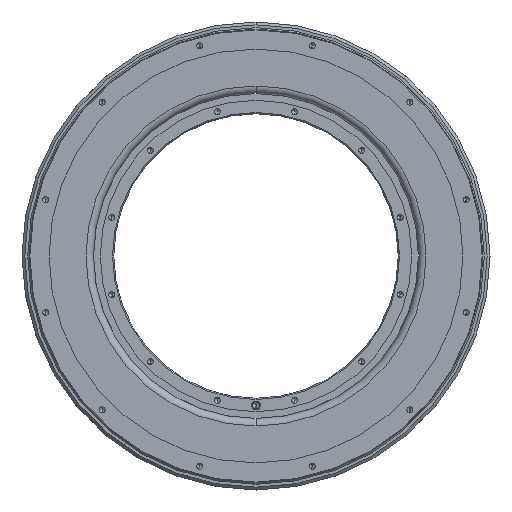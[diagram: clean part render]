
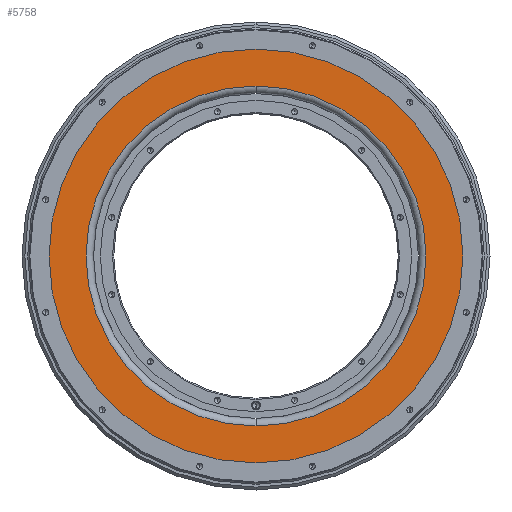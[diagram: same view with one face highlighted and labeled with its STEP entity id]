
A CAD part, front view. The second image highlights one B-rep face of the part: STEP entity #5758.
In plain terms, the highlighted planar face has unit normal (0, -1, 0).
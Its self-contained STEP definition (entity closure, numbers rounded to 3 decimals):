
#246 = DIRECTION ( 'NONE',  ( 0., 0., 1. ) ) ;
#412 = AXIS2_PLACEMENT_3D ( 'NONE', #4676, #442, #474 ) ;
#442 = DIRECTION ( 'NONE',  ( 0., 1., 0. ) ) ;
#465 = ORIENTED_EDGE ( 'NONE', *, *, #8377, .T. ) ;
#474 = DIRECTION ( 'NONE',  ( 0., 0., 1. ) ) ;
#480 = ORIENTED_EDGE ( 'NONE', *, *, #7435, .T. ) ;
#964 = CARTESIAN_POINT ( 'NONE',  ( 0., 3., 0. ) ) ;
#1097 = FACE_OUTER_BOUND ( 'NONE', #3872, .T. ) ;
#1186 = EDGE_CURVE ( 'NONE', #8975, #2670, #5616, .T. ) ;
#1329 = VERTEX_POINT ( 'NONE', #7527 ) ;
#1461 = AXIS2_PLACEMENT_3D ( 'NONE', #3251, #6092, #8256 ) ;
#1659 = DIRECTION ( 'NONE',  ( 0., 0., -1. ) ) ;
#1748 = CARTESIAN_POINT ( 'NONE',  ( 0., 3., 0. ) ) ;
#1830 = DIRECTION ( 'NONE',  ( 0., 0., 1. ) ) ;
#2670 = VERTEX_POINT ( 'NONE', #3164 ) ;
#2790 = VERTEX_POINT ( 'NONE', #3779 ) ;
#3140 = ORIENTED_EDGE ( 'NONE', *, *, #7529, .T. ) ;
#3164 = CARTESIAN_POINT ( 'NONE',  ( 0., 3., 145.5 ) ) ;
#3196 = AXIS2_PLACEMENT_3D ( 'NONE', #3314, #5342, #1830 ) ;
#3251 = CARTESIAN_POINT ( 'NONE',  ( 0., 3., 0. ) ) ;
#3314 = CARTESIAN_POINT ( 'NONE',  ( 0., 3., 0. ) ) ;
#3779 = CARTESIAN_POINT ( 'NONE',  ( 0., 3., 119.5 ) ) ;
#3872 = EDGE_LOOP ( 'NONE', ( #5557, #3140 ) ) ;
#4456 = DIRECTION ( 'NONE',  ( 0., 1., 0. ) ) ;
#4515 = AXIS2_PLACEMENT_3D ( 'NONE', #1748, #4456, #246 ) ;
#4644 = PLANE ( 'NONE',  #412 ) ;
#4676 = CARTESIAN_POINT ( 'NONE',  ( -145.5, 3., 0. ) ) ;
#5342 = DIRECTION ( 'NONE',  ( 0., 1., 0. ) ) ;
#5476 = AXIS2_PLACEMENT_3D ( 'NONE', #964, #8030, #1659 ) ;
#5557 = ORIENTED_EDGE ( 'NONE', *, *, #1186, .T. ) ;
#5616 = CIRCLE ( 'NONE', #1461, 145.5 ) ;
#5758 = ADVANCED_FACE ( 'NONE', ( #7041, #1097 ), #4644, .F. ) ;
#6092 = DIRECTION ( 'NONE',  ( 0., -1., 0. ) ) ;
#6242 = CIRCLE ( 'NONE', #5476, 145.5 ) ;
#6902 = EDGE_LOOP ( 'NONE', ( #480, #465 ) ) ;
#7041 = FACE_BOUND ( 'NONE', #6902, .T. ) ;
#7435 = EDGE_CURVE ( 'NONE', #2790, #1329, #8780, .T. ) ;
#7527 = CARTESIAN_POINT ( 'NONE',  ( 0., 3., -119.5 ) ) ;
#7529 = EDGE_CURVE ( 'NONE', #2670, #8975, #6242, .T. ) ;
#7568 = CIRCLE ( 'NONE', #3196, 119.5 ) ;
#7755 = CARTESIAN_POINT ( 'NONE',  ( 0., 3., -145.5 ) ) ;
#8030 = DIRECTION ( 'NONE',  ( 0., -1., 0. ) ) ;
#8256 = DIRECTION ( 'NONE',  ( 0., 0., -1. ) ) ;
#8377 = EDGE_CURVE ( 'NONE', #1329, #2790, #7568, .T. ) ;
#8780 = CIRCLE ( 'NONE', #4515, 119.5 ) ;
#8975 = VERTEX_POINT ( 'NONE', #7755 ) ;
